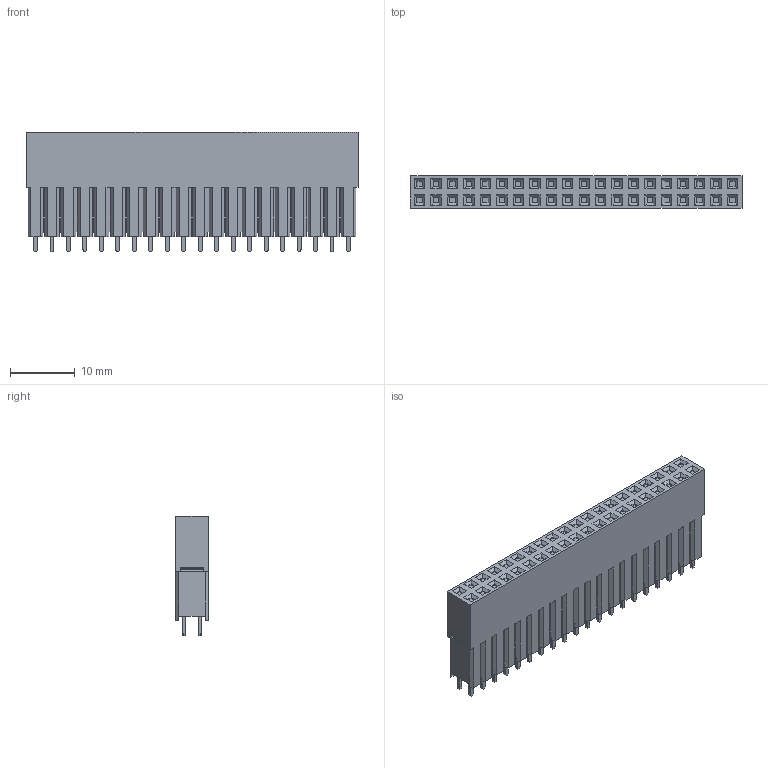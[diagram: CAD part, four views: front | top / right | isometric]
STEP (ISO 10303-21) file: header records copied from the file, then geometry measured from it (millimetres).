
FILE_DESCRIPTION (( 'STEP AP214' ), '1' );
FILE_NAME ('2047-2X20G00S4U.STEP', '2022-11-28T03:54:08', ( '' ), ( '' ), 'SwSTEP 2.0', 'SolidWorks 2011', '' );
FILE_SCHEMA (( 'AUTOMOTIVE_DESIGN' ));
Length unit declared in the file: millimetre
Products named in the file (1): 2047-2X20G00S4U
Bounding box: 51.2 x 5 x 18.43 mm (x, y, z)
Volume: 3771.3 mm3; surface area: 3279.8 mm2
Topology: 1 solids, 81 shells, 1718 faces, 4266 edges, 2788 vertices
Faces by surface type: plane 1638, cylinder 80
Entity records: 49704 total; most frequent: CARTESIAN_POINT 8773, ORIENTED_EDGE 8532, DIRECTION 7864, EDGE_CURVE 4266, LINE 4106, VECTOR 4106, VERTEX_POINT 2788, AXIS2_PLACEMENT_3D 1879
